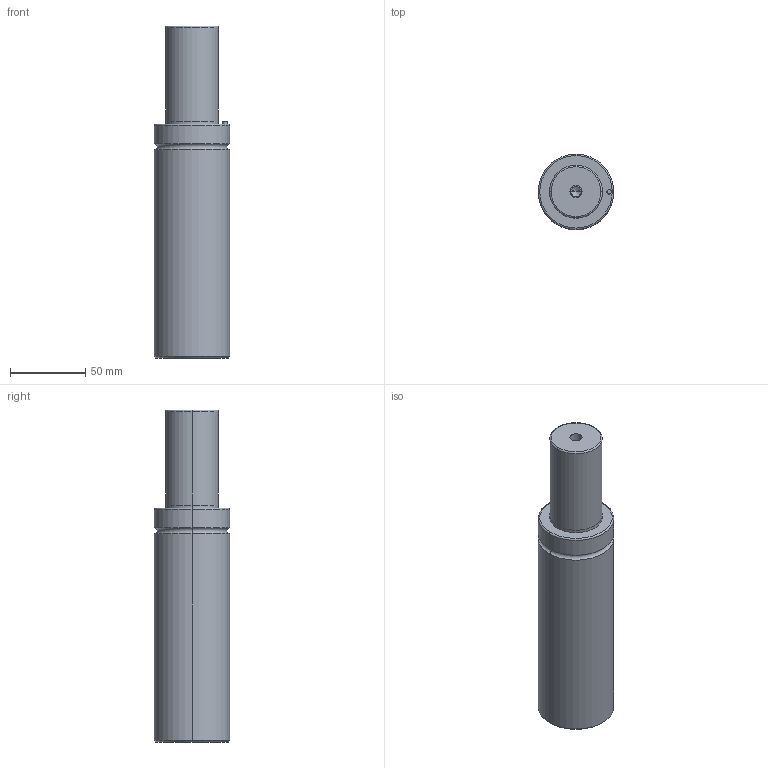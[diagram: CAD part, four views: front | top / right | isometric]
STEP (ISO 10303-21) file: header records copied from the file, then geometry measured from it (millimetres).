
FILE_DESCRIPTION(/* description */ (''),/* implementation_level */ '2;1');
FILE_NAME(/* name */ '3d_gsm50-63_03891_r00.stp',/* time_stamp */ '2011-01-10T14:15:15+09:00',/* author */ ('MISUMI'),/* organization */ (''),/* preprocessor_version */ 'ST-DEVELOPER v11',/* originating_system */ 'UGS - NX 5.0',/* authorisation */ '');
FILE_SCHEMA (('CONFIG_CONTROL_DESIGN'));
Length unit declared in the file: millimetre
Products named in the file (1): 3d_gsm50-63_03891_r00
Bounding box: 50 x 50 x 220 mm (x, y, z)
Volume: 362933.4 mm3; surface area: 36982.9 mm2
Topology: 1 solids, 1 shells, 50 faces, 106 edges, 60 vertices
Faces by surface type: cylinder 26, cone 10, plane 8, torus 6
Entity records: 1382 total; most frequent: DIRECTION 262, CARTESIAN_POINT 209, ORIENTED_EDGE 196, AXIS2_PLACEMENT_3D 113, EDGE_CURVE 98, CIRCLE 62, EDGE_LOOP 60, VERTEX_POINT 60
